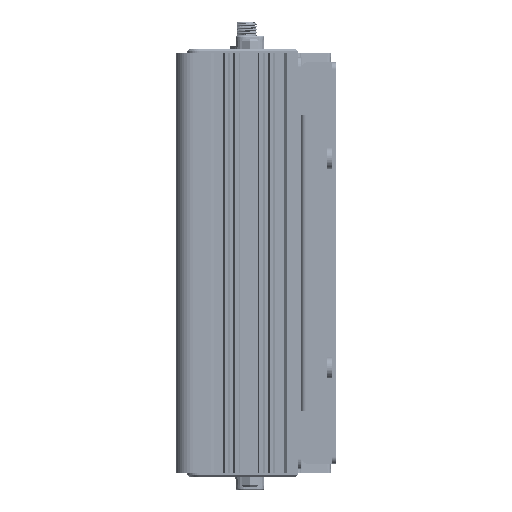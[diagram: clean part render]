
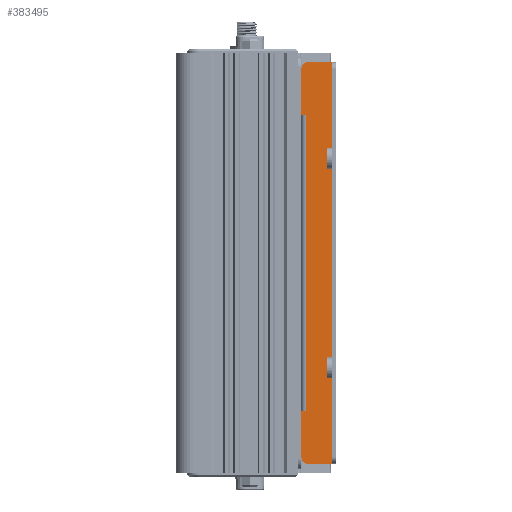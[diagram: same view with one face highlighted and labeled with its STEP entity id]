
A CAD part, left-side view. The second image highlights one B-rep face of the part: STEP entity #383495.
In plain terms, the highlighted planar face has unit normal (-1, 0, 0).
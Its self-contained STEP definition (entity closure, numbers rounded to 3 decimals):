
#487 = ORIENTED_EDGE ( 'NONE', *, *, #394332, .F. ) ;
#12842 = VECTOR ( 'NONE', #522909, 1000. ) ;
#28808 = CARTESIAN_POINT ( 'NONE',  ( -115.107, 0., 7.202 ) ) ;
#58965 = DIRECTION ( 'NONE',  ( -1., 0., 0. ) ) ;
#74229 = DIRECTION ( 'NONE',  ( 0., 0., 1. ) ) ;
#77027 = VECTOR ( 'NONE', #583753, 1000. ) ;
#80950 = VERTEX_POINT ( 'NONE', #28808 ) ;
#102774 = CIRCLE ( 'NONE', #446268, 2. ) ;
#106036 = VERTEX_POINT ( 'NONE', #649021 ) ;
#111634 = ORIENTED_EDGE ( 'NONE', *, *, #546261, .F. ) ;
#120166 = CARTESIAN_POINT ( 'NONE',  ( -115.107, 0., -103.798 ) ) ;
#153946 = LINE ( 'NONE', #633404, #786904 ) ;
#163451 = EDGE_CURVE ( 'NONE', #434540, #434272, #102774, .T. ) ;
#169978 = AXIS2_PLACEMENT_3D ( 'NONE', #692469, #508259, #297922 ) ;
#173552 = CARTESIAN_POINT ( 'NONE',  ( -115.107, 0., -6.048 ) ) ;
#196733 = CARTESIAN_POINT ( 'NONE',  ( -115.107, -5.2, 9.202 ) ) ;
#248339 = CARTESIAN_POINT ( 'NONE',  ( -115.107, -8.8, -105.798 ) ) ;
#256553 = LINE ( 'NONE', #525494, #77027 ) ;
#270747 = DIRECTION ( 'NONE',  ( 0., 0., 1. ) ) ;
#277941 = ORIENTED_EDGE ( 'NONE', *, *, #419624, .F. ) ;
#282783 = LINE ( 'NONE', #564722, #784805 ) ;
#287194 = DIRECTION ( 'NONE',  ( 0., -1., 0. ) ) ;
#297922 = DIRECTION ( 'NONE',  ( 0., 1., 0. ) ) ;
#312657 = VECTOR ( 'NONE', #74229, 1000. ) ;
#318745 = VECTOR ( 'NONE', #745877, 1000. ) ;
#339745 = ORIENTED_EDGE ( 'NONE', *, *, #382978, .F. ) ;
#345031 = ORIENTED_EDGE ( 'NONE', *, *, #163451, .T. ) ;
#349559 = AXIS2_PLACEMENT_3D ( 'NONE', #439001, #833783, #363073 ) ;
#363073 = DIRECTION ( 'NONE',  ( 0., -1., 0. ) ) ;
#382978 = EDGE_CURVE ( 'NONE', #106036, #80950, #688282, .T. ) ;
#383495 = ADVANCED_FACE ( 'NONE', ( #701220 ), #436696, .F. ) ;
#390260 = ORIENTED_EDGE ( 'NONE', *, *, #591914, .T. ) ;
#394332 = EDGE_CURVE ( 'NONE', #553630, #708038, #256553, .T. ) ;
#407712 = EDGE_CURVE ( 'NONE', #831942, #492207, #465587, .T. ) ;
#410524 = CARTESIAN_POINT ( 'NONE',  ( -115.107, 0., -6.048 ) ) ;
#419624 = EDGE_CURVE ( 'NONE', #434540, #455277, #153946, .T. ) ;
#434272 = VERTEX_POINT ( 'NONE', #520160 ) ;
#434540 = VERTEX_POINT ( 'NONE', #120166 ) ;
#436696 = PLANE ( 'NONE',  #169978 ) ;
#439001 = CARTESIAN_POINT ( 'NONE',  ( -115.107, -2., 7.202 ) ) ;
#441762 = EDGE_CURVE ( 'NONE', #610475, #434272, #611253, .T. ) ;
#444362 = DIRECTION ( 'NONE',  ( 0., 0., 1. ) ) ;
#446268 = AXIS2_PLACEMENT_3D ( 'NONE', #462436, #58965, #664276 ) ;
#446871 = EDGE_LOOP ( 'NONE', ( #481859, #719845, #339745, #501353, #487, #111634, #277941, #345031, #488725, #390260 ) ) ;
#455277 = VERTEX_POINT ( 'NONE', #517565 ) ;
#461622 = CARTESIAN_POINT ( 'NONE',  ( -115.107, -1.2, -90.548 ) ) ;
#462436 = CARTESIAN_POINT ( 'NONE',  ( -115.107, -2., -103.798 ) ) ;
#465587 = LINE ( 'NONE', #196733, #584515 ) ;
#481859 = ORIENTED_EDGE ( 'NONE', *, *, #407712, .T. ) ;
#487960 = VECTOR ( 'NONE', #444362, 1000. ) ;
#488725 = ORIENTED_EDGE ( 'NONE', *, *, #441762, .F. ) ;
#492207 = VERTEX_POINT ( 'NONE', #807373 ) ;
#501353 = ORIENTED_EDGE ( 'NONE', *, *, #701414, .T. ) ;
#508259 = DIRECTION ( 'NONE',  ( 1., 0., 0. ) ) ;
#517565 = CARTESIAN_POINT ( 'NONE',  ( -115.107, 0., -90.548 ) ) ;
#518472 = LINE ( 'NONE', #173552, #12842 ) ;
#520160 = CARTESIAN_POINT ( 'NONE',  ( -115.107, -2., -105.798 ) ) ;
#522909 = DIRECTION ( 'NONE',  ( 0., -1., 0. ) ) ;
#525494 = CARTESIAN_POINT ( 'NONE',  ( -115.107, -1.2, -105.798 ) ) ;
#529177 = CARTESIAN_POINT ( 'NONE',  ( -115.107, -1.2, -6.048 ) ) ;
#535530 = CIRCLE ( 'NONE', #349559, 2. ) ;
#546261 = EDGE_CURVE ( 'NONE', #455277, #553630, #282783, .T. ) ;
#553630 = VERTEX_POINT ( 'NONE', #461622 ) ;
#564722 = CARTESIAN_POINT ( 'NONE',  ( -115.107, 0., -90.548 ) ) ;
#583753 = DIRECTION ( 'NONE',  ( 0., 0., 1. ) ) ;
#584515 = VECTOR ( 'NONE', #886964, 1000. ) ;
#591914 = EDGE_CURVE ( 'NONE', #610475, #831942, #717857, .T. ) ;
#607025 = CARTESIAN_POINT ( 'NONE',  ( -115.107, -8.8, 9.202 ) ) ;
#610475 = VERTEX_POINT ( 'NONE', #248339 ) ;
#611253 = LINE ( 'NONE', #620145, #318745 ) ;
#620145 = CARTESIAN_POINT ( 'NONE',  ( -115.107, -5.2, -105.798 ) ) ;
#633404 = CARTESIAN_POINT ( 'NONE',  ( -115.107, 0., -105.798 ) ) ;
#641812 = CARTESIAN_POINT ( 'NONE',  ( -115.107, -8.8, -105.798 ) ) ;
#649021 = CARTESIAN_POINT ( 'NONE',  ( -115.107, 0., -6.048 ) ) ;
#664276 = DIRECTION ( 'NONE',  ( 0., -1., 0. ) ) ;
#688282 = LINE ( 'NONE', #410524, #312657 ) ;
#692469 = CARTESIAN_POINT ( 'NONE',  ( -115.107, -5.2, -105.798 ) ) ;
#701220 = FACE_OUTER_BOUND ( 'NONE', #446871, .T. ) ;
#701414 = EDGE_CURVE ( 'NONE', #106036, #708038, #518472, .T. ) ;
#708038 = VERTEX_POINT ( 'NONE', #529177 ) ;
#717857 = LINE ( 'NONE', #641812, #487960 ) ;
#719845 = ORIENTED_EDGE ( 'NONE', *, *, #719979, .T. ) ;
#719979 = EDGE_CURVE ( 'NONE', #492207, #80950, #535530, .T. ) ;
#745877 = DIRECTION ( 'NONE',  ( 0., 1., 0. ) ) ;
#784805 = VECTOR ( 'NONE', #287194, 1000. ) ;
#786904 = VECTOR ( 'NONE', #270747, 1000. ) ;
#807373 = CARTESIAN_POINT ( 'NONE',  ( -115.107, -2., 9.202 ) ) ;
#831942 = VERTEX_POINT ( 'NONE', #607025 ) ;
#833783 = DIRECTION ( 'NONE',  ( -1., 0., 0. ) ) ;
#886964 = DIRECTION ( 'NONE',  ( 0., 1., 0. ) ) ;
